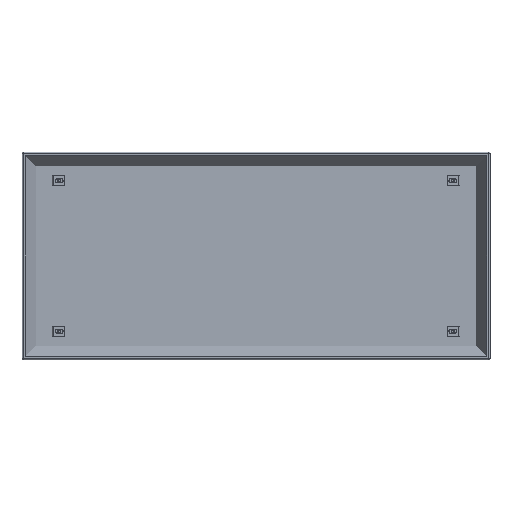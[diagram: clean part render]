
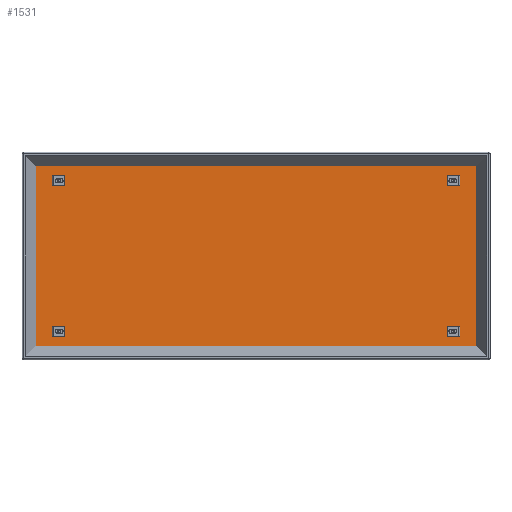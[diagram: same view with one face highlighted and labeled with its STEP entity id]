
A CAD part, front view. The second image highlights one B-rep face of the part: STEP entity #1531.
In plain terms, the highlighted planar face has unit normal (0, -1, 0).
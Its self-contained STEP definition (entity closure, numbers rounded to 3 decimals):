
#96 = EDGE_CURVE ( 'NONE', #1590, #872, #2533, .T. ) ;
#104 = CARTESIAN_POINT ( 'NONE',  ( 109.569, 68., -80.569 ) ) ;
#115 = AXIS2_PLACEMENT_3D ( 'NONE', #1275, #853, #2837 ) ;
#124 = FACE_BOUND ( 'NONE', #974, .T. ) ;
#169 = CARTESIAN_POINT ( 'NONE',  ( 0., 68., -41.569 ) ) ;
#229 = AXIS2_PLACEMENT_3D ( 'NONE', #2456, #2235, #487 ) ;
#237 = CARTESIAN_POINT ( 'NONE',  ( 109.569, 68., -518.431 ) ) ;
#255 = DIRECTION ( 'NONE',  ( 0., 0., -1. ) ) ;
#263 = AXIS2_PLACEMENT_3D ( 'NONE', #1378, #269, #2049 ) ;
#269 = DIRECTION ( 'NONE',  ( 0., -1., 0. ) ) ;
#284 = CARTESIAN_POINT ( 'NONE',  ( 1243.431, 68., -518.431 ) ) ;
#292 = CIRCLE ( 'NONE', #115, 4. ) ;
#340 = ORIENTED_EDGE ( 'NONE', *, *, #1837, .F. ) ;
#384 = VERTEX_POINT ( 'NONE', #978 ) ;
#386 = DIRECTION ( 'NONE',  ( 1., 0., 0. ) ) ;
#394 = LINE ( 'NONE', #1648, #609 ) ;
#438 = DIRECTION ( 'NONE',  ( 0., 0., -1. ) ) ;
#487 = DIRECTION ( 'NONE',  ( 0., 0., 1. ) ) ;
#564 = DIRECTION ( 'NONE',  ( 0., 0., -1. ) ) ;
#566 = CARTESIAN_POINT ( 'NONE',  ( 109.569, 68., -514.431 ) ) ;
#600 = AXIS2_PLACEMENT_3D ( 'NONE', #2868, #692, #438 ) ;
#609 = VECTOR ( 'NONE', #2534, 1000. ) ;
#619 = FACE_BOUND ( 'NONE', #768, .T. ) ;
#643 = VECTOR ( 'NONE', #386, 1000. ) ;
#691 = EDGE_CURVE ( 'NONE', #384, #1869, #2652, .T. ) ;
#692 = DIRECTION ( 'NONE',  ( 0., -1., 0. ) ) ;
#746 = CIRCLE ( 'NONE', #747, 4. ) ;
#747 = AXIS2_PLACEMENT_3D ( 'NONE', #988, #1876, #1182 ) ;
#768 = EDGE_LOOP ( 'NONE', ( #2278, #2215 ) ) ;
#811 = EDGE_CURVE ( 'NONE', #1447, #1451, #1628, .T. ) ;
#853 = DIRECTION ( 'NONE',  ( 0., -1., 0. ) ) ;
#872 = VERTEX_POINT ( 'NONE', #1639 ) ;
#877 = LINE ( 'NONE', #2549, #2260 ) ;
#905 = VERTEX_POINT ( 'NONE', #104 ) ;
#974 = EDGE_LOOP ( 'NONE', ( #1644, #1554 ) ) ;
#978 = CARTESIAN_POINT ( 'NONE',  ( 109.569, 68., -522.431 ) ) ;
#988 = CARTESIAN_POINT ( 'NONE',  ( 1243.431, 68., -518.431 ) ) ;
#993 = EDGE_LOOP ( 'NONE', ( #340, #1786 ) ) ;
#1006 = DIRECTION ( 'NONE',  ( 0., -1., 0. ) ) ;
#1044 = CIRCLE ( 'NONE', #600, 4. ) ;
#1081 = EDGE_CURVE ( 'NONE', #1869, #384, #1979, .T. ) ;
#1084 = CARTESIAN_POINT ( 'NONE',  ( 41.569, 68., -561.431 ) ) ;
#1106 = DIRECTION ( 'NONE',  ( 0., -1., 0. ) ) ;
#1124 = EDGE_CURVE ( 'NONE', #905, #2383, #1044, .T. ) ;
#1136 = VERTEX_POINT ( 'NONE', #1084 ) ;
#1154 = CARTESIAN_POINT ( 'NONE',  ( 41.569, 68., 0. ) ) ;
#1157 = VECTOR ( 'NONE', #1392, 1000. ) ;
#1178 = CARTESIAN_POINT ( 'NONE',  ( 109.569, 68., -88.569 ) ) ;
#1182 = DIRECTION ( 'NONE',  ( 0., 0., -1. ) ) ;
#1222 = LINE ( 'NONE', #169, #643 ) ;
#1275 = CARTESIAN_POINT ( 'NONE',  ( 109.569, 68., -84.569 ) ) ;
#1279 = ORIENTED_EDGE ( 'NONE', *, *, #2218, .F. ) ;
#1287 = CARTESIAN_POINT ( 'NONE',  ( 1243.431, 68., -88.569 ) ) ;
#1303 = FACE_OUTER_BOUND ( 'NONE', #2104, .T. ) ;
#1376 = DIRECTION ( 'NONE',  ( 0., -1., 0. ) ) ;
#1378 = CARTESIAN_POINT ( 'NONE',  ( 0., 68., 0. ) ) ;
#1392 = DIRECTION ( 'NONE',  ( 0., 0., 1. ) ) ;
#1411 = AXIS2_PLACEMENT_3D ( 'NONE', #2441, #1106, #2645 ) ;
#1420 = ORIENTED_EDGE ( 'NONE', *, *, #2858, .F. ) ;
#1447 = VERTEX_POINT ( 'NONE', #1287 ) ;
#1451 = VERTEX_POINT ( 'NONE', #2460 ) ;
#1455 = FACE_BOUND ( 'NONE', #1588, .T. ) ;
#1531 = ADVANCED_FACE ( 'NONE', ( #619, #1691, #1455, #124, #1303 ), #2027, .T. ) ;
#1554 = ORIENTED_EDGE ( 'NONE', *, *, #2085, .F. ) ;
#1559 = AXIS2_PLACEMENT_3D ( 'NONE', #284, #1376, #255 ) ;
#1588 = EDGE_LOOP ( 'NONE', ( #1279, #2003 ) ) ;
#1590 = VERTEX_POINT ( 'NONE', #2276 ) ;
#1608 = AXIS2_PLACEMENT_3D ( 'NONE', #237, #1744, #2200 ) ;
#1628 = CIRCLE ( 'NONE', #1411, 4. ) ;
#1639 = CARTESIAN_POINT ( 'NONE',  ( 1243.431, 68., -514.431 ) ) ;
#1641 = AXIS2_PLACEMENT_3D ( 'NONE', #1661, #1006, #2592 ) ;
#1644 = ORIENTED_EDGE ( 'NONE', *, *, #1124, .F. ) ;
#1648 = CARTESIAN_POINT ( 'NONE',  ( 0., 68., -561.431 ) ) ;
#1659 = CARTESIAN_POINT ( 'NONE',  ( 1311.431, 68., -561.431 ) ) ;
#1661 = CARTESIAN_POINT ( 'NONE',  ( 109.569, 68., -518.431 ) ) ;
#1691 = FACE_BOUND ( 'NONE', #993, .T. ) ;
#1735 = VERTEX_POINT ( 'NONE', #1659 ) ;
#1744 = DIRECTION ( 'NONE',  ( 0., -1., 0. ) ) ;
#1754 = EDGE_CURVE ( 'NONE', #1735, #1136, #394, .T. ) ;
#1758 = ORIENTED_EDGE ( 'NONE', *, *, #2338, .F. ) ;
#1786 = ORIENTED_EDGE ( 'NONE', *, *, #96, .F. ) ;
#1837 = EDGE_CURVE ( 'NONE', #872, #1590, #746, .T. ) ;
#1869 = VERTEX_POINT ( 'NONE', #566 ) ;
#1876 = DIRECTION ( 'NONE',  ( 0., -1., 0. ) ) ;
#1979 = CIRCLE ( 'NONE', #1641, 4. ) ;
#2003 = ORIENTED_EDGE ( 'NONE', *, *, #811, .F. ) ;
#2027 = PLANE ( 'NONE',  #263 ) ;
#2028 = ORIENTED_EDGE ( 'NONE', *, *, #2452, .F. ) ;
#2049 = DIRECTION ( 'NONE',  ( 0., 0., -1. ) ) ;
#2063 = CARTESIAN_POINT ( 'NONE',  ( 1311.431, 68., -41.569 ) ) ;
#2085 = EDGE_CURVE ( 'NONE', #2383, #905, #292, .T. ) ;
#2104 = EDGE_LOOP ( 'NONE', ( #1758, #2562, #1420, #2028 ) ) ;
#2200 = DIRECTION ( 'NONE',  ( 0., 0., 1. ) ) ;
#2215 = ORIENTED_EDGE ( 'NONE', *, *, #691, .F. ) ;
#2218 = EDGE_CURVE ( 'NONE', #1451, #1447, #2862, .T. ) ;
#2229 = LINE ( 'NONE', #1154, #1157 ) ;
#2235 = DIRECTION ( 'NONE',  ( 0., -1., 0. ) ) ;
#2260 = VECTOR ( 'NONE', #564, 1000. ) ;
#2276 = CARTESIAN_POINT ( 'NONE',  ( 1243.431, 68., -522.431 ) ) ;
#2278 = ORIENTED_EDGE ( 'NONE', *, *, #1081, .F. ) ;
#2309 = VERTEX_POINT ( 'NONE', #2063 ) ;
#2338 = EDGE_CURVE ( 'NONE', #1136, #2384, #2229, .T. ) ;
#2383 = VERTEX_POINT ( 'NONE', #1178 ) ;
#2384 = VERTEX_POINT ( 'NONE', #2745 ) ;
#2441 = CARTESIAN_POINT ( 'NONE',  ( 1243.431, 68., -84.569 ) ) ;
#2452 = EDGE_CURVE ( 'NONE', #2384, #2309, #1222, .T. ) ;
#2456 = CARTESIAN_POINT ( 'NONE',  ( 1243.431, 68., -84.569 ) ) ;
#2460 = CARTESIAN_POINT ( 'NONE',  ( 1243.431, 68., -80.569 ) ) ;
#2533 = CIRCLE ( 'NONE', #1559, 4. ) ;
#2534 = DIRECTION ( 'NONE',  ( -1., 0., 0. ) ) ;
#2549 = CARTESIAN_POINT ( 'NONE',  ( 1311.431, 68., 0. ) ) ;
#2562 = ORIENTED_EDGE ( 'NONE', *, *, #1754, .F. ) ;
#2592 = DIRECTION ( 'NONE',  ( 0., 0., 1. ) ) ;
#2645 = DIRECTION ( 'NONE',  ( 0., 0., 1. ) ) ;
#2652 = CIRCLE ( 'NONE', #1608, 4. ) ;
#2745 = CARTESIAN_POINT ( 'NONE',  ( 41.569, 68., -41.569 ) ) ;
#2837 = DIRECTION ( 'NONE',  ( 0., 0., -1. ) ) ;
#2858 = EDGE_CURVE ( 'NONE', #2309, #1735, #877, .T. ) ;
#2862 = CIRCLE ( 'NONE', #229, 4. ) ;
#2868 = CARTESIAN_POINT ( 'NONE',  ( 109.569, 68., -84.569 ) ) ;
